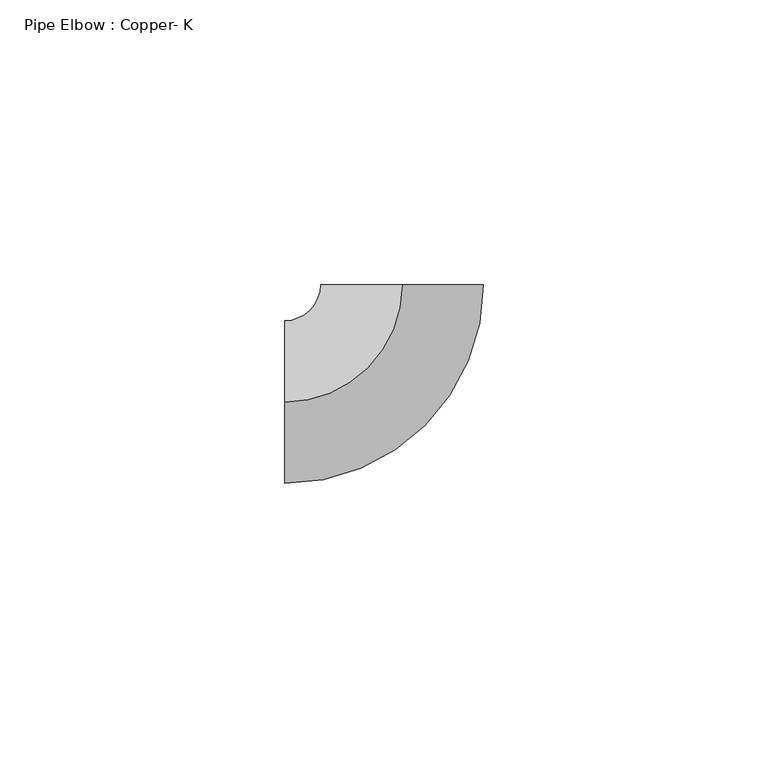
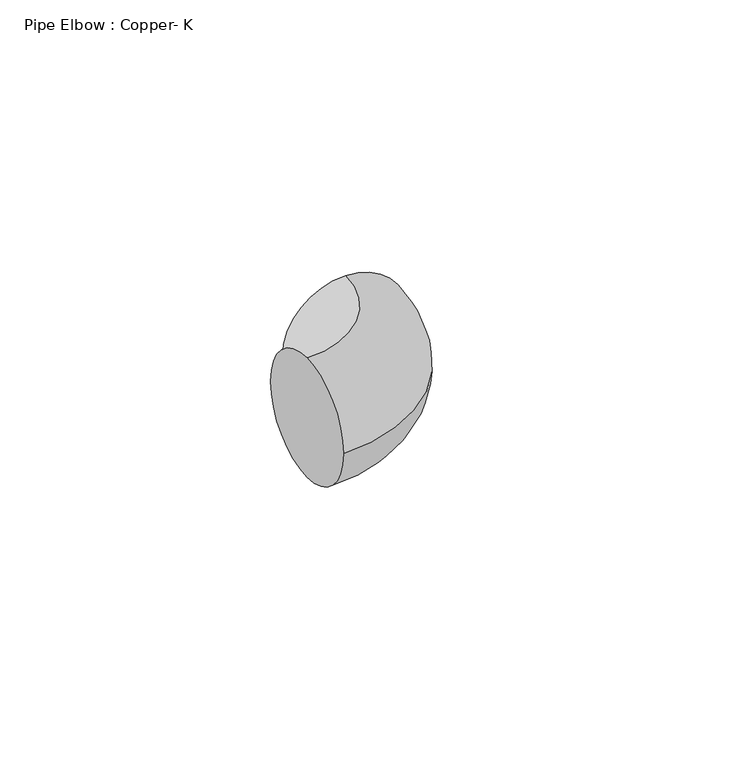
"""IFC4 building model written with IfcOpenShell, lengths in millimetres: pipe fitting geometry, Pipe Elbow : Copper- K."""

from ifc_helpers import new_model, si_unit, point, frame, origin, place, context, project, spatial, circle_curve, ellipse_curve, trimmed, source, transform, mapped, element, save
from ifc_brep_helpers import plane_surface, revolved_surface, advanced_brep


def pipe_elbow_copper_k_feaaf02c(model_context):
    return source(origin(), model_context, "Body", "AdvancedBrep", [
        advanced_brep(
        [(-20.6375, 0.0, 14.2875), (-20.6375, 14.2875, 0.0), (-20.6375, 0.0, -14.2875), (-20.6375, -14.2875, 0.0), (0.0, 20.6375, 14.2875), (14.2875, 20.6375, 0.0), (0.0, 20.6375, -14.2875), (-14.2875, 20.6375, 0.0)],
        [
            (0, 1, circle_curve(frame((-20.6375, 0.0, 0.0), z_axis=(-1.0, 0.0, 0.0), x_axis=(0.0, 1.0, 0.0)), 14.2875)),
            (1, 2, circle_curve(frame((-20.6375, 0.0, 0.0), z_axis=(-1.0, 0.0, 0.0), x_axis=(0.0, 1.0, 0.0)), 14.2875)),
            (2, 3, circle_curve(frame((-20.6375, 0.0, 0.0), z_axis=(-1.0, 0.0, 0.0), x_axis=(0.0, 1.0, 0.0)), 14.2875)),
            (3, 0, circle_curve(frame((-20.6375, 0.0, 0.0), z_axis=(-1.0, 0.0, 0.0), x_axis=(0.0, 1.0, 0.0)), 14.2875)),
            (4, 5, circle_curve(frame((0.0, 20.6375, 0.0), z_axis=(0.0, 1.0, 0.0), x_axis=(-1.0, 0.0, 0.0)), 14.2875)),
            (5, 6, circle_curve(frame((0.0, 20.6375, 0.0), z_axis=(0.0, 1.0, 0.0), x_axis=(-1.0, 0.0, 0.0)), 14.2875)),
            (6, 7, circle_curve(frame((0.0, 20.6375, 0.0), z_axis=(0.0, 1.0, 0.0), x_axis=(-1.0, 0.0, 0.0)), 14.2875)),
            (7, 4, circle_curve(frame((0.0, 20.6375, 0.0), z_axis=(0.0, 1.0, 0.0), x_axis=(-1.0, 0.0, 0.0)), 14.2875)),
            (7, 1, circle_curve(frame((-20.6375, 20.6375, 0.0), z_axis=(0.0, 0.0, -1.0), x_axis=(0.0, -1.0, 0.0)), 6.35)),
            (0, 4, circle_curve(frame((-20.6375, 20.6375, 14.2875), z_axis=(0.0, 0.0, 1.0), x_axis=(0.0, -1.0, 0.0)), 20.6375)),
            (6, 2, circle_curve(frame((-20.6375, 20.6375, -14.2875), z_axis=(0.0, 0.0, -1.0), x_axis=(0.0, -1.0, 0.0)), 20.6375)),
            (5, 3, circle_curve(frame((-20.6375, 20.6375, 0.0), z_axis=(0.0, 0.0, -1.0), x_axis=(0.0, -1.0, 0.0)), 34.925)),
        ],
        [
            plane_surface(frame((-20.6375, 0.0, 0.0), z_axis=(-1.0, 0.0, 0.0), x_axis=(0.0, 0.0, 1.0))),
            plane_surface(frame((0.0, 20.6375, 0.0), z_axis=(0.0, 1.0, 0.0), x_axis=(0.0, 0.0, 1.0))),
            revolved_surface(trimmed(ellipse_curve(frame((-20.6375, 0.0, 0.0), z_axis=(-1.0, 0.0, 0.0), x_axis=(0.0, 1.0, 0.0)), 14.2875, 14.2875), [point((-20.6375, 0.0, 14.2875))], [point((-20.6375, 14.2875, 0.0))], True, "CARTESIAN"), (-20.6375, 20.6375, 0.0), (0.0, 0.0, 1.0)),
            revolved_surface(trimmed(ellipse_curve(frame((-20.6375, 0.0, 0.0), z_axis=(-1.0, 0.0, 0.0), x_axis=(0.0, 1.0, 0.0)), 14.2875, 14.2875), [point((-20.6375, 14.2875, 0.0))], [point((-20.6375, 0.0, -14.2875))], True, "CARTESIAN"), (-20.6375, 20.6375, 0.0), (0.0, 0.0, 1.0)),
            revolved_surface(trimmed(ellipse_curve(frame((-20.6375, 0.0, 0.0), z_axis=(-1.0, 0.0, 0.0), x_axis=(0.0, 1.0, 0.0)), 14.2875, 14.2875), [point((-20.6375, 0.0, -14.2875))], [point((-20.6375, -14.2875, 0.0))], True, "CARTESIAN"), (-20.6375, 20.6375, 0.0), (0.0, 0.0, 1.0)),
            revolved_surface(trimmed(ellipse_curve(frame((-20.6375, 0.0, 0.0), z_axis=(-1.0, 0.0, 0.0), x_axis=(0.0, 1.0, 0.0)), 14.2875, 14.2875), [point((-20.6375, -14.2875, 0.0))], [point((-20.6375, 0.0, 14.2875))], True, "CARTESIAN"), (-20.6375, 20.6375, 0.0), (0.0, 0.0, 1.0)),
        ],
        [
            (0, [[1, 2, 3, 4]]),
            (1, [[5, 6, 7, 8]]),
            (2, [[9, -1, 10, -8]]),
            (3, [[11, -2, -9, -7]]),
            (4, [[12, -3, -11, -6]]),
            (5, [[-10, -4, -12, -5]]),
        ],
    ),
        advanced_brep(
        [(-20.6375, 0.0, 14.2875), (-20.6375, 14.2875, 0.0), (-20.6375, 0.0, -14.2875), (-20.6375, -14.2875, 0.0), (0.0, 20.6375, 14.2875), (14.2875, 20.6375, 0.0), (0.0, 20.6375, -14.2875), (-14.2875, 20.6375, 0.0)],
        [
            (0, 1, circle_curve(frame((-20.6375, 0.0, 0.0), z_axis=(-1.0, 0.0, 0.0), x_axis=(0.0, 1.0, 0.0)), 14.2875)),
            (1, 2, circle_curve(frame((-20.6375, 0.0, 0.0), z_axis=(-1.0, 0.0, 0.0), x_axis=(0.0, 1.0, 0.0)), 14.2875)),
            (2, 3, circle_curve(frame((-20.6375, 0.0, 0.0), z_axis=(-1.0, 0.0, 0.0), x_axis=(0.0, 1.0, 0.0)), 14.2875)),
            (3, 0, circle_curve(frame((-20.6375, 0.0, 0.0), z_axis=(-1.0, 0.0, 0.0), x_axis=(0.0, 1.0, 0.0)), 14.2875)),
            (4, 5, circle_curve(frame((0.0, 20.6375, 0.0), z_axis=(0.0, 1.0, 0.0), x_axis=(-1.0, 0.0, 0.0)), 14.2875)),
            (5, 6, circle_curve(frame((0.0, 20.6375, 0.0), z_axis=(0.0, 1.0, 0.0), x_axis=(-1.0, 0.0, 0.0)), 14.2875)),
            (6, 7, circle_curve(frame((0.0, 20.6375, 0.0), z_axis=(0.0, 1.0, 0.0), x_axis=(-1.0, 0.0, 0.0)), 14.2875)),
            (7, 4, circle_curve(frame((0.0, 20.6375, 0.0), z_axis=(0.0, 1.0, 0.0), x_axis=(-1.0, 0.0, 0.0)), 14.2875)),
            (7, 1, circle_curve(frame((-20.6375, 20.6375, 0.0), z_axis=(0.0, 0.0, -1.0), x_axis=(0.0, -1.0, 0.0)), 6.35)),
            (0, 4, circle_curve(frame((-20.6375, 20.6375, 14.2875), z_axis=(0.0, 0.0, 1.0), x_axis=(0.0, -1.0, 0.0)), 20.6375)),
            (6, 2, circle_curve(frame((-20.6375, 20.6375, -14.2875), z_axis=(0.0, 0.0, -1.0), x_axis=(0.0, -1.0, 0.0)), 20.6375)),
            (5, 3, circle_curve(frame((-20.6375, 20.6375, 0.0), z_axis=(0.0, 0.0, -1.0), x_axis=(0.0, -1.0, 0.0)), 34.925)),
        ],
        [
            plane_surface(frame((-20.6375, 0.0, 0.0), z_axis=(-1.0, 0.0, 0.0), x_axis=(0.0, 0.0, 1.0))),
            plane_surface(frame((0.0, 20.6375, 0.0), z_axis=(0.0, 1.0, 0.0), x_axis=(0.0, 0.0, 1.0))),
            revolved_surface(trimmed(ellipse_curve(frame((-20.6375, 0.0, 0.0), z_axis=(-1.0, 0.0, 0.0), x_axis=(0.0, 1.0, 0.0)), 14.2875, 14.2875), [point((-20.6375, 0.0, 14.2875))], [point((-20.6375, 14.2875, 0.0))], True, "CARTESIAN"), (-20.6375, 20.6375, 0.0), (0.0, 0.0, 1.0)),
            revolved_surface(trimmed(ellipse_curve(frame((-20.6375, 0.0, 0.0), z_axis=(-1.0, 0.0, 0.0), x_axis=(0.0, 1.0, 0.0)), 14.2875, 14.2875), [point((-20.6375, 14.2875, 0.0))], [point((-20.6375, 0.0, -14.2875))], True, "CARTESIAN"), (-20.6375, 20.6375, 0.0), (0.0, 0.0, 1.0)),
            revolved_surface(trimmed(ellipse_curve(frame((-20.6375, 0.0, 0.0), z_axis=(-1.0, 0.0, 0.0), x_axis=(0.0, 1.0, 0.0)), 14.2875, 14.2875), [point((-20.6375, 0.0, -14.2875))], [point((-20.6375, -14.2875, 0.0))], True, "CARTESIAN"), (-20.6375, 20.6375, 0.0), (0.0, 0.0, 1.0)),
            revolved_surface(trimmed(ellipse_curve(frame((-20.6375, 0.0, 0.0), z_axis=(-1.0, 0.0, 0.0), x_axis=(0.0, 1.0, 0.0)), 14.2875, 14.2875), [point((-20.6375, -14.2875, 0.0))], [point((-20.6375, 0.0, 14.2875))], True, "CARTESIAN"), (-20.6375, 20.6375, 0.0), (0.0, 0.0, 1.0)),
        ],
        [
            (0, [[1, 2, 3, 4]]),
            (1, [[5, 6, 7, 8]]),
            (2, [[9, -1, 10, -8]]),
            (3, [[11, -2, -9, -7]]),
            (4, [[12, -3, -11, -6]]),
            (5, [[-10, -4, -12, -5]]),
        ],
    ),
    ])


if __name__ == "__main__":
    model = new_model("IFC4")
    model_context = context("Model", 3, world=origin())
    ifc_project = project(units=[si_unit("LENGTHUNIT", "METRE", prefix="MILLI")], contexts=[model_context])
    site = spatial("IfcSite", under=ifc_project)
    building = spatial("IfcBuilding", under=site)
    placement = place(None, origin())
    pipe_elbow_copper_k_shape = pipe_elbow_copper_k_feaaf02c(model_context)
    element("IfcPipeFitting", 1, ObjectType="Pipe Elbow : Copper- K", at=placement, inside=building, context=model_context, shape_type="MappedRepresentation", body=[
        mapped(pipe_elbow_copper_k_shape, transform((0.0, 0.0, 0.0), x_axis=(1.0, 0.0, 0.0), y_axis=(0.0, 1.0, 0.0), z_axis=(0.0, 0.0, 1.0))),
    ])
    save(model, "model.ifc")
